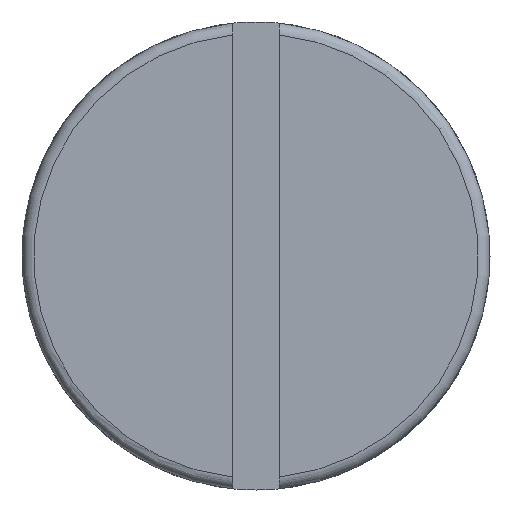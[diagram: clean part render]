
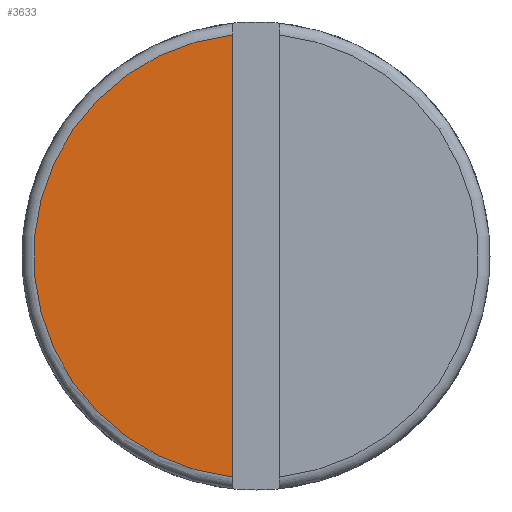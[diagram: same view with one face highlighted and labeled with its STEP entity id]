
A CAD part, front view. The second image highlights one B-rep face of the part: STEP entity #3633.
In plain terms, the highlighted planar face has unit normal (0, -1, 0).
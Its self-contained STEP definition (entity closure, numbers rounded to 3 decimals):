
#135 = CARTESIAN_POINT ( 'NONE',  ( -1., 0., -9.447 ) ) ;
#307 = DIRECTION ( 'NONE',  ( 0., 0., 1. ) ) ;
#601 = CARTESIAN_POINT ( 'NONE',  ( 0., 0., 0. ) ) ;
#643 = VERTEX_POINT ( 'NONE', #4519 ) ;
#886 = VECTOR ( 'NONE', #3578, 1000. ) ;
#1159 = EDGE_CURVE ( 'NONE', #1966, #643, #2783, .T. ) ;
#1247 = AXIS2_PLACEMENT_3D ( 'NONE', #601, #1716, #307 ) ;
#1349 = DIRECTION ( 'NONE',  ( 0., -1., 0. ) ) ;
#1492 = DIRECTION ( 'NONE',  ( 0., 0., 1. ) ) ;
#1716 = DIRECTION ( 'NONE',  ( 0., 1., 0. ) ) ;
#1966 = VERTEX_POINT ( 'NONE', #135 ) ;
#2165 = EDGE_CURVE ( 'NONE', #643, #1966, #3103, .T. ) ;
#2501 = AXIS2_PLACEMENT_3D ( 'NONE', #4738, #1349, #1492 ) ;
#2783 = LINE ( 'NONE', #3533, #886 ) ;
#3103 = CIRCLE ( 'NONE', #2501, 9.5 ) ;
#3533 = CARTESIAN_POINT ( 'NONE',  ( -1., 0., 0. ) ) ;
#3542 = EDGE_LOOP ( 'NONE', ( #3915, #4268 ) ) ;
#3578 = DIRECTION ( 'NONE',  ( 0., 0., 1. ) ) ;
#3633 = ADVANCED_FACE ( 'NONE', ( #3980 ), #4054, .F. ) ;
#3915 = ORIENTED_EDGE ( 'NONE', *, *, #1159, .T. ) ;
#3980 = FACE_OUTER_BOUND ( 'NONE', #3542, .T. ) ;
#4054 = PLANE ( 'NONE',  #1247 ) ;
#4268 = ORIENTED_EDGE ( 'NONE', *, *, #2165, .T. ) ;
#4519 = CARTESIAN_POINT ( 'NONE',  ( -1., 0., 9.447 ) ) ;
#4738 = CARTESIAN_POINT ( 'NONE',  ( 0., 0., 0. ) ) ;
